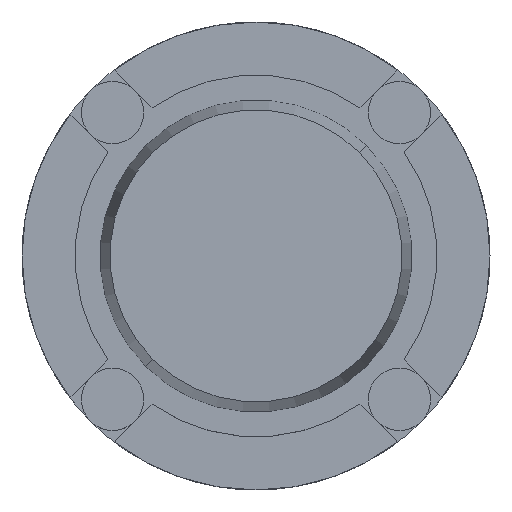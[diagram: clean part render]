
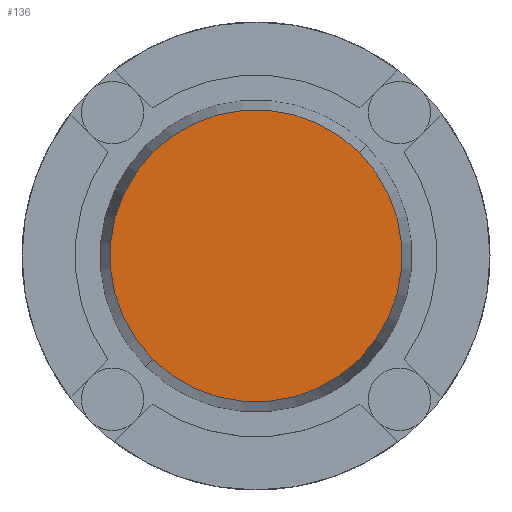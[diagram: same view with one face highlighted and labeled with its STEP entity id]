
A CAD part, top view. The second image highlights one B-rep face of the part: STEP entity #136.
In plain terms, the highlighted planar face has unit normal (0, 0, 1) as drawn and (1, 0, 0) by its records, which use the part's own axes.
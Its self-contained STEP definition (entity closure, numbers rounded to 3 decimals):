
#136=ADVANCED_FACE('',(#179),#784,.T.);
#179=FACE_OUTER_BOUND('',#223,.T.);
#223=EDGE_LOOP('',(#341,#342));
#341=ORIENTED_EDGE('',*,*,#508,.F.);
#342=ORIENTED_EDGE('',*,*,#511,.F.);
#508=EDGE_CURVE('',#740,#742,#567,.T.);
#511=EDGE_CURVE('',#742,#740,#569,.T.);
#567=TRIMMED_CURVE($,#615,(#1479),(#1480),.T.,.CARTESIAN.);
#569=TRIMMED_CURVE($,#617,(#1487),(#1488),.T.,.CARTESIAN.);
#615=CIRCLE('',#1036,23.413);
#617=CIRCLE('',#1038,23.413);
#740=VERTEX_POINT('',#1319);
#742=VERTEX_POINT('',#1321);
#784=PLANE('',#993);
#993=AXIS2_PLACEMENT_3D('',#1241,#1088,$);
#1036=AXIS2_PLACEMENT_3D($,#1478,#1152,#1153);
#1038=AXIS2_PLACEMENT_3D($,#1486,#1156,#1157);
#1088=DIRECTION('',(1.,0.,0.));
#1152=DIRECTION('',(-1.,0.,0.));
#1153=DIRECTION('',(0.,0.,1.));
#1156=DIRECTION('',(-1.,0.,0.));
#1157=DIRECTION('',(0.,0.,-1.));
#1241=CARTESIAN_POINT('',(13.,-28.156,-28.156));
#1319=CARTESIAN_POINT('',(13.,0.,23.413));
#1321=CARTESIAN_POINT('',(13.,0.,-23.413));
#1478=CARTESIAN_POINT('',(13.,0.,0.));
#1479=CARTESIAN_POINT('',(13.,0.,23.413));
#1480=CARTESIAN_POINT('',(13.,0.,-23.413));
#1486=CARTESIAN_POINT('',(13.,0.,0.));
#1487=CARTESIAN_POINT('',(13.,0.,-23.413));
#1488=CARTESIAN_POINT('',(13.,0.,23.413));
